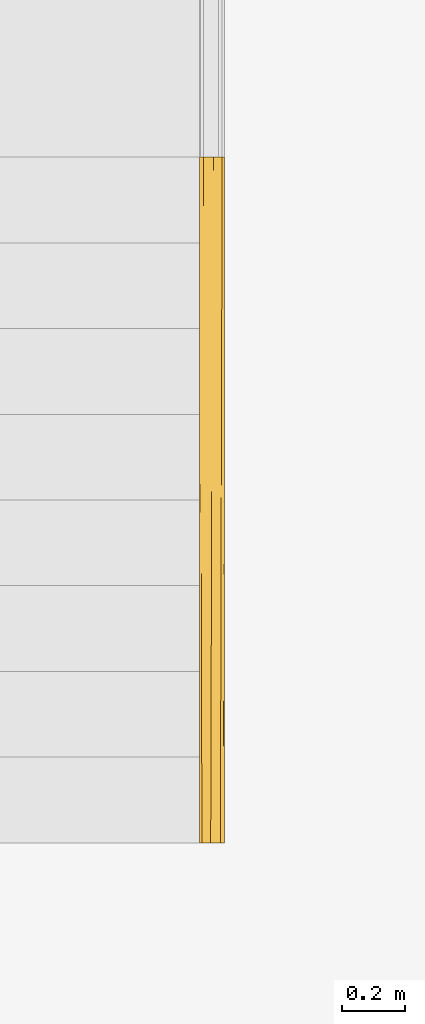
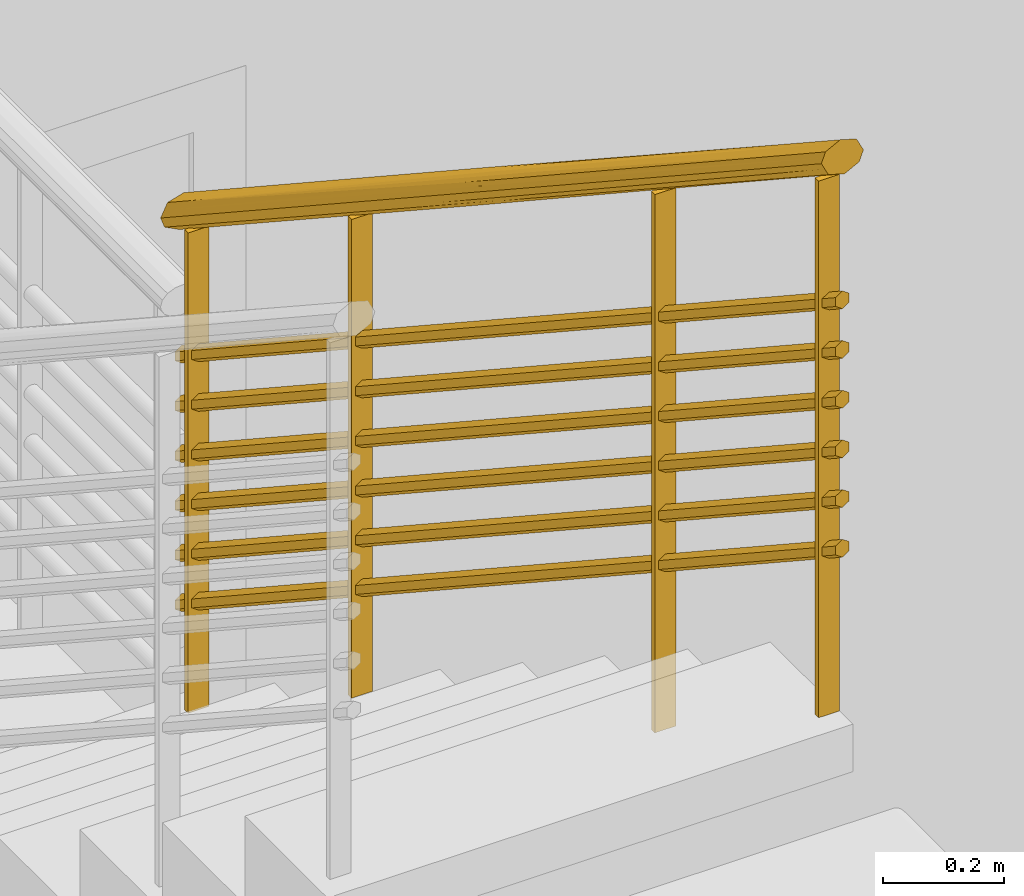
# One storey, part 21 of 40: 1 railing, 1 element without a shape of its own.
"""IFC2X3 building model written with IfcOpenShell, lengths in metres."""

from ifc_helpers import new_model, entity, si_unit, converted_unit, derived_unit, direction, frame, origin, place, context, subcontext, project, spatial, faceted_brep, material, material_list, element, aggregate, save


model = new_model("IFC2X3")

# Units and contexts
model_context = context("Model", 3, precision=1e-05, world=origin(), true_north=direction((6.12303176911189e-17, 1.0)))
body_context = subcontext(model_context, "Body", "Model", "MODEL_VIEW")
ifc_project = project(units=[si_unit("LENGTHUNIT", "METRE"), si_unit("AREAUNIT", "SQUARE_METRE"), si_unit("VOLUMEUNIT", "CUBIC_METRE"), converted_unit("PLANEANGLEUNIT", "DEGREE", entity("IfcRatioMeasure", 0.0174532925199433), si_unit("PLANEANGLEUNIT", "RADIAN"), dimensions=[0, 0, 0, 0, 0, 0, 0]), si_unit("MASSUNIT", "GRAM", prefix="KILO"), derived_unit("MASSDENSITYUNIT", [(si_unit("MASSUNIT", "GRAM", prefix="KILO"), 1), (si_unit("LENGTHUNIT", "METRE"), -3)]), si_unit("TIMEUNIT", "SECOND"), si_unit("FREQUENCYUNIT", "HERTZ"), si_unit("THERMODYNAMICTEMPERATUREUNIT", "DEGREE_CELSIUS"), derived_unit("THERMALTRANSMITTANCEUNIT", [(si_unit("MASSUNIT", "GRAM", prefix="KILO"), 1), (si_unit("THERMODYNAMICTEMPERATUREUNIT", "KELVIN"), -1), (si_unit("TIMEUNIT", "SECOND"), -3)]), derived_unit("VOLUMETRICFLOWRATEUNIT", [(si_unit("LENGTHUNIT", "METRE"), 3), (si_unit("TIMEUNIT", "SECOND"), -1)]), si_unit("ELECTRICCURRENTUNIT", "AMPERE"), si_unit("ELECTRICVOLTAGEUNIT", "VOLT"), si_unit("POWERUNIT", "WATT"), si_unit("FORCEUNIT", "NEWTON", prefix="KILO"), si_unit("ILLUMINANCEUNIT", "LUX"), si_unit("LUMINOUSFLUXUNIT", "LUMEN"), si_unit("LUMINOUSINTENSITYUNIT", "CANDELA"), derived_unit("USERDEFINED", [(si_unit("MASSUNIT", "GRAM", prefix="KILO"), -1), (si_unit("LENGTHUNIT", "METRE"), -2), (si_unit("TIMEUNIT", "SECOND"), 3), (si_unit("LUMINOUSFLUXUNIT", "LUMEN"), 1)]), derived_unit("LINEARVELOCITYUNIT", [(si_unit("LENGTHUNIT", "METRE"), 1), (si_unit("TIMEUNIT", "SECOND"), -1)]), si_unit("PRESSUREUNIT", "PASCAL"), derived_unit("USERDEFINED", [(si_unit("LENGTHUNIT", "METRE"), -2), (si_unit("MASSUNIT", "GRAM", prefix="KILO"), 1), (si_unit("TIMEUNIT", "SECOND"), -2)])], contexts=[model_context])

# Site, building, storey
site_placement = place(None, origin())
site = spatial("IfcSite", under=ifc_project, at=site_placement, Name="Surface", CompositionType="ELEMENT")
building_placement = place(site_placement, origin())
building = spatial("IfcBuilding", under=site, at=building_placement, CompositionType="ELEMENT")
storey_placement = place(building_placement, origin())
storey = spatial("IfcBuildingStorey", under=building, at=storey_placement, Name="RDC", CompositionType="ELEMENT", Elevation=-1.0941605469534e-13)

# Stair, railing
stair_placement = place(storey_placement, origin())
stair = element("IfcStair", 1, at=stair_placement, inside=storey, Name="Escalier:Monobloc", ObjectType="Escalier:Monobloc", ShapeType="NOTDEFINED")
ifc_material_1 = material(Name="Peinture - Grise")
ifc_material_2 = material(Name="Pin (1)")
ifc_material_list = material_list([ifc_material_1, ifc_material_2])
railing_placement = place(stair_placement, frame((3.43591583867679, 4.36818714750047, 1.78823529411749)))
railing = element("IfcRailing", 2, at=railing_placement, material=ifc_material_list, Name="Garde-corps:Type Bateau escalier 2", ObjectType="Garde-corps:Type Bateau escalier 2", PredefinedType="NOTDEFINED", context=body_context, shape_type="Brep", body=[
    faceted_brep([(0.061595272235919, 0.583411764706, 1.97751559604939), (0.061595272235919, 0.595411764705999, 1.97751559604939), (0.0215952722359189, 0.595411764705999, 1.97751559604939), (0.0215952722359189, 0.583411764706, 1.97751559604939), (0.061595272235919, 0.583411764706, 0.894117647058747), (0.0215952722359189, 0.583411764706, 0.894117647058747), (0.0215952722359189, 0.595411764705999, 0.894117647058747), (0.061595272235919, 0.595411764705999, 0.894117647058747)], [[[0, 1, 2, 3]], [[4, 5, 6, 7]], [[1, 0, 4, 7]], [[2, 1, 7, 6]], [[3, 2, 6, 5]], [[0, 3, 5, 4]]]),
    faceted_brep([(0.0615952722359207, 1.583411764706, 1.32092812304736), (0.0615952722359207, 1.595411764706, 1.32092812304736), (0.0215952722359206, 1.595411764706, 1.32092812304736), (0.0215952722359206, 1.583411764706, 1.32092812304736), (0.0615952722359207, 1.583411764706, 0.357647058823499), (0.0215952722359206, 1.583411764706, 0.357647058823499), (0.0215952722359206, 1.595411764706, 0.357647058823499), (0.0615952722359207, 1.595411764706, 0.357647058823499)], [[[0, 1, 2, 3]], [[4, 5, 6, 7]], [[1, 0, 4, 7]], [[2, 1, 7, 6]], [[3, 2, 6, 5]], [[0, 3, 5, 4]]]),
    faceted_brep([(0.061595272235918, 0.043999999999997, 2.33168660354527), (0.061595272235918, 0.055999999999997, 2.33168660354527), (0.0215952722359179, 0.055999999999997, 2.33168660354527), (0.0215952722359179, 0.043999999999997, 2.33168660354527), (0.061595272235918, 0.043999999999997, 1.25176470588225), (0.0215952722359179, 0.043999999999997, 1.25176470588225), (0.0215952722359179, 0.055999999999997, 1.25176470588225), (0.061595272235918, 0.055999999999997, 1.25176470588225)], [[[0, 1, 2, 3]], [[4, 5, 6, 7]], [[1, 0, 4, 7]], [[2, 1, 7, 6]], [[3, 2, 6, 5]], [[0, 3, 5, 4]]]),
    faceted_brep([(0.0615952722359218, 2.122823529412, 0.966757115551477), (0.0615952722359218, 2.134823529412, 0.966757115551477), (0.0215952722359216, 2.134823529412, 0.966757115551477), (0.0215952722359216, 2.122823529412, 0.966757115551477), (0.0615952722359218, 2.122823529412, 0.0), (0.0215952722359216, 2.122823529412, 0.0), (0.0215952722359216, 2.134823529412, 0.0), (0.0615952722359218, 2.134823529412, 0.0)], [[[0, 1, 2, 3]], [[4, 5, 6, 7]], [[1, 0, 4, 7]], [[2, 1, 7, 6]], [[3, 2, 6, 5]], [[0, 3, 5, 4]]]),
    faceted_brep([(0.0545856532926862, 2.17882352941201, 0.69102783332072), (0.0545856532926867, 2.17882352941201, 0.68654174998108), (0.0545856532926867, 2.17882352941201, 0.682055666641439), (0.0545856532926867, 2.17882352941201, 0.677569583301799), (0.0545856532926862, 2.17882352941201, 0.673083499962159), (0.051338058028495, 2.17882352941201, 0.670840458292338), (0.0480904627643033, 2.17882352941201, 0.668597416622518), (0.0451628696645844, 2.17882352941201, 0.66657539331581), (0.0415952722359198, 2.17882352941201, 0.664111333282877), (0.0380276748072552, 2.17882352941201, 0.66657539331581), (0.0344600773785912, 2.17882352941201, 0.669039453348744), (0.0315324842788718, 2.17882352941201, 0.67106147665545), (0.0286048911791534, 2.17882352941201, 0.673083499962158), (0.0286048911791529, 2.17882352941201, 0.677569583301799), (0.0286048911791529, 2.17882352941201, 0.682055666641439), (0.0286048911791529, 2.17882352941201, 0.68654174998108), (0.0286048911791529, 2.17882352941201, 0.69102783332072), (0.0318524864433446, 2.17882352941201, 0.693270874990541), (0.0351000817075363, 2.17882352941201, 0.695513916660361), (0.0383476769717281, 2.17882352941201, 0.697756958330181), (0.0415952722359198, 2.17882352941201, 0.700000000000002), (0.0451628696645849, 2.17882352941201, 0.697535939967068), (0.0480904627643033, 2.17882352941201, 0.695513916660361), (0.051338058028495, 2.17882352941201, 0.69327087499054), (0.0380276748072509, 0.0, 2.12812417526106), (0.0351000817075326, 0.0, 2.12610215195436), (0.0318524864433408, 0.0, 2.12385911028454), (0.0286048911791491, 0.0, 2.12161606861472), (0.0286048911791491, 0.0, 2.11712998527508), (0.0286048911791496, 0.0, 2.11264390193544), (0.0286048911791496, 0.0, 2.10815781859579), (0.0286048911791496, 0.0, 2.10367173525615), (0.0318524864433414, 0.0, 2.10142869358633), (0.0351000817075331, 0.0, 2.09918565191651), (0.0380276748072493, 0.0, 2.09716362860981), (0.041595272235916, 0.0, 2.09469956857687), (0.0448428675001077, 0.0, 2.09694261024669), (0.0480904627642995, 0.0, 2.09918565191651), (0.0513380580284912, 0.0, 2.10142869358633), (0.0545856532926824, 0.0, 2.10367173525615), (0.0545856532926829, 0.0, 2.1081578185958), (0.0545856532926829, 0.0, 2.11264390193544), (0.0545856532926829, 0.0, 2.11712998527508), (0.0545856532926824, 0.0, 2.12161606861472), (0.051658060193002, 0.0, 2.1236380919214), (0.048730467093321, 0.0, 2.12566011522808), (0.045162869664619, 0.0, 2.12812417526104), (0.041595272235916, 0.0, 2.130588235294)], [[[0, 1, 2, 3, 4, 5, 6, 7, 8, 9, 10, 11, 12, 13, 14, 15, 16, 17, 18, 19, 20, 21, 22, 23]], [[24, 25, 26, 27, 28, 29, 30, 31, 32, 33, 34, 35, 36, 37, 38, 39, 40, 41, 42, 43, 44, 45, 46, 47]], [[28, 27, 16, 15, 14, 13, 12, 31, 30, 29]], [[33, 32, 31, 12, 11, 10, 9, 8, 35, 34]], [[47, 20, 19, 18, 17, 16, 27, 26, 25, 24]], [[0, 23, 22, 21, 20, 47, 46, 45, 44, 43]], [[6, 5, 4, 39, 38, 37, 36, 35, 8, 7]], [[3, 2, 1, 0, 43, 42, 41, 40, 39, 4]]]),
    faceted_brep([(0.0545856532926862, 2.17882352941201, 0.591027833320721), (0.0545856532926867, 2.17882352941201, 0.58654174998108), (0.0545856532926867, 2.17882352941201, 0.582055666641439), (0.0545856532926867, 2.17882352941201, 0.577569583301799), (0.0545856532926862, 2.17882352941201, 0.573083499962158), (0.051338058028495, 2.17882352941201, 0.570840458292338), (0.0480904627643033, 2.17882352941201, 0.568597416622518), (0.0451628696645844, 2.17882352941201, 0.56657539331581), (0.0415952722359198, 2.17882352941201, 0.564111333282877), (0.0380276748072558, 2.17882352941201, 0.56657539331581), (0.0344600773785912, 2.17882352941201, 0.569039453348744), (0.0315324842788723, 2.17882352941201, 0.57106147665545), (0.0286048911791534, 2.17882352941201, 0.573083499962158), (0.0286048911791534, 2.17882352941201, 0.577569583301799), (0.0286048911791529, 2.17882352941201, 0.582055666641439), (0.0286048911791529, 2.17882352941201, 0.58654174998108), (0.0286048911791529, 2.17882352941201, 0.59102783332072), (0.0318524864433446, 2.17882352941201, 0.593270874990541), (0.0351000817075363, 2.17882352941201, 0.595513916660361), (0.0383476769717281, 2.17882352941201, 0.597756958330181), (0.0415952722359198, 2.17882352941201, 0.600000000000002), (0.0451628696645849, 2.17882352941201, 0.597535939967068), (0.0480904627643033, 2.17882352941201, 0.595513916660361), (0.0513380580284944, 2.17882352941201, 0.593270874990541), (0.0380276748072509, 0.0, 2.02812417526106), (0.0351000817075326, 0.0, 2.02610215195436), (0.0318524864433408, 0.0, 2.02385911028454), (0.0286048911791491, 0.0, 2.02161606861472), (0.0286048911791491, 0.0, 2.01712998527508), (0.0286048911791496, 0.0, 2.01264390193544), (0.0286048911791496, 0.0, 2.00815781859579), (0.0286048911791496, 0.0, 2.00367173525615), (0.0318524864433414, 0.0, 2.00142869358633), (0.0351000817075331, 0.0, 1.99918565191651), (0.0380276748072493, 0.0, 1.99716362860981), (0.041595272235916, 0.0, 1.99469956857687), (0.0448428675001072, 0.0, 1.99694261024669), (0.0480904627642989, 0.0, 1.99918565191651), (0.0513380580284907, 0.0, 2.00142869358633), (0.0545856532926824, 0.0, 2.00367173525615), (0.0545856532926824, 0.0, 2.00815781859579), (0.0545856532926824, 0.0, 2.01264390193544), (0.0545856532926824, 0.0, 2.01712998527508), (0.0545856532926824, 0.0, 2.02161606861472), (0.0516580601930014, 0.0, 2.0236380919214), (0.048730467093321, 0.0, 2.02566011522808), (0.045162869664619, 0.0, 2.02812417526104), (0.041595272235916, 0.0, 2.030588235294)], [[[0, 1, 2, 3, 4, 5, 6, 7, 8, 9, 10, 11, 12, 13, 14, 15, 16, 17, 18, 19, 20, 21, 22, 23]], [[24, 25, 26, 27, 28, 29, 30, 31, 32, 33, 34, 35, 36, 37, 38, 39, 40, 41, 42, 43, 44, 45, 46, 47]], [[28, 27, 16, 15, 14, 13, 12, 31, 30, 29]], [[33, 32, 31, 12, 11, 10, 9, 8, 35, 34]], [[47, 20, 19, 18, 17, 16, 27, 26, 25, 24]], [[0, 23, 22, 21, 20, 47, 46, 45, 44, 43]], [[6, 5, 4, 39, 38, 37, 36, 35, 8, 7]], [[3, 2, 1, 0, 43, 42, 41, 40, 39, 4]]]),
    faceted_brep([(0.0545856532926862, 2.17882352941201, 0.491027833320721), (0.0545856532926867, 2.17882352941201, 0.48654174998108), (0.0545856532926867, 2.17882352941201, 0.48205566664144), (0.0545856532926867, 2.17882352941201, 0.477569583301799), (0.0545856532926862, 2.17882352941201, 0.473083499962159), (0.051338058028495, 2.17882352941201, 0.470840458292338), (0.0480904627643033, 2.17882352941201, 0.468597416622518), (0.0451628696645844, 2.17882352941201, 0.46657539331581), (0.0415952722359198, 2.17882352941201, 0.464111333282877), (0.0380276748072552, 2.17882352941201, 0.46657539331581), (0.0344600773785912, 2.17882352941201, 0.469039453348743), (0.0315324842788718, 2.17882352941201, 0.471061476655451), (0.0286048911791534, 2.17882352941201, 0.473083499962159), (0.0286048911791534, 2.17882352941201, 0.477569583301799), (0.0286048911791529, 2.17882352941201, 0.482055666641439), (0.0286048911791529, 2.17882352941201, 0.48654174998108), (0.0286048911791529, 2.17882352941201, 0.491027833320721), (0.0318524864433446, 2.17882352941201, 0.493270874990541), (0.0351000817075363, 2.17882352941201, 0.495513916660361), (0.0383476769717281, 2.17882352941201, 0.497756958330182), (0.0415952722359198, 2.17882352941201, 0.500000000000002), (0.0451628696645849, 2.17882352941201, 0.497535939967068), (0.0480904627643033, 2.17882352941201, 0.495513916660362), (0.0513380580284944, 2.17882352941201, 0.493270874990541), (0.0380276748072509, 0.0, 1.92812417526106), (0.0351000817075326, 0.0, 1.92610215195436), (0.0318524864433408, 0.0, 1.92385911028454), (0.0286048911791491, 0.0, 1.92161606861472), (0.0286048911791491, 0.0, 1.91712998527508), (0.0286048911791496, 0.0, 1.91264390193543), (0.0286048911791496, 0.0, 1.90815781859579), (0.0286048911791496, 0.0, 1.90367173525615), (0.0318524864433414, 0.0, 1.90142869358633), (0.0351000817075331, 0.0, 1.89918565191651), (0.0380276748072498, 0.0, 1.89716362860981), (0.041595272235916, 0.0, 1.89469956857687), (0.0448428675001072, 0.0, 1.89694261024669), (0.0480904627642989, 0.0, 1.89918565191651), (0.0513380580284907, 0.0, 1.90142869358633), (0.0545856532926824, 0.0, 1.90367173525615), (0.0545856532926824, 0.0, 1.90815781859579), (0.0545856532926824, 0.0, 1.91264390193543), (0.0545856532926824, 0.0, 1.91712998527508), (0.0545856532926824, 0.0, 1.92161606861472), (0.0516580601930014, 0.0, 1.9236380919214), (0.0487304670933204, 0.0, 1.92566011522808), (0.0451628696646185, 0.0, 1.92812417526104), (0.041595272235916, 0.0, 1.930588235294)], [[[0, 1, 2, 3, 4, 5, 6, 7, 8, 9, 10, 11, 12, 13, 14, 15, 16, 17, 18, 19, 20, 21, 22, 23]], [[24, 25, 26, 27, 28, 29, 30, 31, 32, 33, 34, 35, 36, 37, 38, 39, 40, 41, 42, 43, 44, 45, 46, 47]], [[28, 27, 16, 15, 14, 13, 12, 31, 30, 29]], [[33, 32, 31, 12, 11, 10, 9, 8, 35, 34]], [[47, 20, 19, 18, 17, 16, 27, 26, 25, 24]], [[0, 23, 22, 21, 20, 47, 46, 45, 44, 43]], [[6, 5, 4, 39, 38, 37, 36, 35, 8, 7]], [[3, 2, 1, 0, 43, 42, 41, 40, 39, 4]]]),
    faceted_brep([(0.0545856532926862, 2.17882352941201, 0.391027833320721), (0.0545856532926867, 2.17882352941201, 0.38654174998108), (0.0545856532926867, 2.17882352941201, 0.38205566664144), (0.0545856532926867, 2.17882352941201, 0.377569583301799), (0.0545856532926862, 2.17882352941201, 0.373083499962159), (0.051338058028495, 2.17882352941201, 0.370840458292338), (0.0480904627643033, 2.17882352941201, 0.368597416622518), (0.0451628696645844, 2.17882352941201, 0.366575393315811), (0.0415952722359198, 2.17882352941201, 0.364111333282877), (0.0380276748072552, 2.17882352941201, 0.36657539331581), (0.0344600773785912, 2.17882352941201, 0.369039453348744), (0.0315324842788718, 2.17882352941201, 0.371061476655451), (0.0286048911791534, 2.17882352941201, 0.373083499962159), (0.0286048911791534, 2.17882352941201, 0.377569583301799), (0.0286048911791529, 2.17882352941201, 0.382055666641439), (0.0286048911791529, 2.17882352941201, 0.38654174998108), (0.0286048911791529, 2.17882352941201, 0.391027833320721), (0.0318524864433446, 2.17882352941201, 0.393270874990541), (0.0351000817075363, 2.17882352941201, 0.395513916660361), (0.0383476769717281, 2.17882352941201, 0.397756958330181), (0.0415952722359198, 2.17882352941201, 0.400000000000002), (0.0451628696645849, 2.17882352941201, 0.397535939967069), (0.0480904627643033, 2.17882352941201, 0.395513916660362), (0.0513380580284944, 2.17882352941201, 0.393270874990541), (0.0380276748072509, 0.0, 1.82812417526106), (0.0351000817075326, 0.0, 1.82610215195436), (0.0318524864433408, 0.0, 1.82385911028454), (0.0286048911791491, 0.0, 1.82161606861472), (0.0286048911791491, 0.0, 1.81712998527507), (0.0286048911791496, 0.0, 1.81264390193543), (0.0286048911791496, 0.0, 1.80815781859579), (0.0286048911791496, 0.0, 1.80367173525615), (0.0318524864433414, 0.0, 1.80142869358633), (0.0351000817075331, 0.0, 1.79918565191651), (0.0380276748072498, 0.0, 1.79716362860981), (0.041595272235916, 0.0, 1.79469956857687), (0.0448428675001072, 0.0, 1.79694261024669), (0.0480904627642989, 0.0, 1.79918565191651), (0.0513380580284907, 0.0, 1.80142869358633), (0.0545856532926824, 0.0, 1.80367173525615), (0.0545856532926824, 0.0, 1.80815781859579), (0.0545856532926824, 0.0, 1.81264390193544), (0.0545856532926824, 0.0, 1.81712998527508), (0.0545856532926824, 0.0, 1.82161606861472), (0.0516580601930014, 0.0, 1.8236380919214), (0.0487304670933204, 0.0, 1.82566011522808), (0.0451628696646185, 0.0, 1.82812417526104), (0.041595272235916, 0.0, 1.830588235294)], [[[0, 1, 2, 3, 4, 5, 6, 7, 8, 9, 10, 11, 12, 13, 14, 15, 16, 17, 18, 19, 20, 21, 22, 23]], [[24, 25, 26, 27, 28, 29, 30, 31, 32, 33, 34, 35, 36, 37, 38, 39, 40, 41, 42, 43, 44, 45, 46, 47]], [[28, 27, 16, 15, 14, 13, 12, 31, 30, 29]], [[33, 32, 31, 12, 11, 10, 9, 8, 35, 34]], [[47, 20, 19, 18, 17, 16, 27, 26, 25, 24]], [[0, 23, 22, 21, 20, 47, 46, 45, 44, 43]], [[6, 5, 4, 39, 38, 37, 36, 35, 8, 7]], [[3, 2, 1, 0, 43, 42, 41, 40, 39, 4]]]),
    faceted_brep([(0.0545856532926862, 2.17882352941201, 0.291027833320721), (0.0545856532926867, 2.17882352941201, 0.28654174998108), (0.0545856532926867, 2.17882352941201, 0.28205566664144), (0.0545856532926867, 2.17882352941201, 0.277569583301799), (0.0545856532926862, 2.17882352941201, 0.273083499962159), (0.051338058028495, 2.17882352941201, 0.270840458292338), (0.0480904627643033, 2.17882352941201, 0.268597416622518), (0.0451628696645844, 2.17882352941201, 0.266575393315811), (0.0415952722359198, 2.17882352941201, 0.264111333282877), (0.0380276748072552, 2.17882352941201, 0.26657539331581), (0.0344600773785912, 2.17882352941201, 0.269039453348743), (0.0315324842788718, 2.17882352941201, 0.271061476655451), (0.0286048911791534, 2.17882352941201, 0.273083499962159), (0.0286048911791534, 2.17882352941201, 0.277569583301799), (0.0286048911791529, 2.17882352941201, 0.282055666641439), (0.0286048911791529, 2.17882352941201, 0.28654174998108), (0.0286048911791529, 2.17882352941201, 0.291027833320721), (0.0318524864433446, 2.17882352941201, 0.293270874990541), (0.0351000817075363, 2.17882352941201, 0.295513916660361), (0.0383476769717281, 2.17882352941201, 0.297756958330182), (0.0415952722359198, 2.17882352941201, 0.300000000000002), (0.0451628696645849, 2.17882352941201, 0.297535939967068), (0.0480904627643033, 2.17882352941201, 0.295513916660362), (0.0513380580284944, 2.17882352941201, 0.293270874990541), (0.0380276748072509, 0.0, 1.72812417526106), (0.0351000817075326, 0.0, 1.72610215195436), (0.0318524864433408, 0.0, 1.72385911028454), (0.0286048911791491, 0.0, 1.72161606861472), (0.0286048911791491, 0.0, 1.71712998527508), (0.0286048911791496, 0.0, 1.71264390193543), (0.0286048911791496, 0.0, 1.70815781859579), (0.0286048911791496, 0.0, 1.70367173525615), (0.0318524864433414, 0.0, 1.70142869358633), (0.0351000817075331, 0.0, 1.69918565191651), (0.0380276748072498, 0.0, 1.69716362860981), (0.041595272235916, 0.0, 1.69469956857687), (0.0448428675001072, 0.0, 1.69694261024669), (0.0480904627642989, 0.0, 1.69918565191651), (0.0513380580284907, 0.0, 1.70142869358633), (0.0545856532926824, 0.0, 1.70367173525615), (0.0545856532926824, 0.0, 1.70815781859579), (0.0545856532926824, 0.0, 1.71264390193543), (0.0545856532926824, 0.0, 1.71712998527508), (0.0545856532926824, 0.0, 1.72161606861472), (0.0516580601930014, 0.0, 1.7236380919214), (0.0487304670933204, 0.0, 1.72566011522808), (0.0451628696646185, 0.0, 1.72812417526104), (0.041595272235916, 0.0, 1.730588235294)], [[[0, 1, 2, 3, 4, 5, 6, 7, 8, 9, 10, 11, 12, 13, 14, 15, 16, 17, 18, 19, 20, 21, 22, 23]], [[24, 25, 26, 27, 28, 29, 30, 31, 32, 33, 34, 35, 36, 37, 38, 39, 40, 41, 42, 43, 44, 45, 46, 47]], [[28, 27, 16, 15, 14, 13, 12, 31, 30, 29]], [[33, 32, 31, 12, 11, 10, 9, 8, 35, 34]], [[47, 20, 19, 18, 17, 16, 27, 26, 25, 24]], [[0, 23, 22, 21, 20, 47, 46, 45, 44, 43]], [[6, 5, 4, 39, 38, 37, 36, 35, 8, 7]], [[3, 2, 1, 0, 43, 42, 41, 40, 39, 4]]]),
    faceted_brep([(0.0545856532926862, 2.17882352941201, 0.191027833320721), (0.0545856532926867, 2.17882352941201, 0.18654174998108), (0.0545856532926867, 2.17882352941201, 0.18205566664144), (0.0545856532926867, 2.17882352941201, 0.177569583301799), (0.0545856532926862, 2.17882352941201, 0.173083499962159), (0.051338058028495, 2.17882352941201, 0.170840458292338), (0.0480904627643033, 2.17882352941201, 0.168597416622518), (0.0451628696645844, 2.17882352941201, 0.16657539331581), (0.0415952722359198, 2.17882352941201, 0.164111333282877), (0.0380276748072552, 2.17882352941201, 0.16657539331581), (0.0344600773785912, 2.17882352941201, 0.169039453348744), (0.0315324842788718, 2.17882352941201, 0.171061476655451), (0.0286048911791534, 2.17882352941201, 0.173083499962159), (0.0286048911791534, 2.17882352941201, 0.177569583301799), (0.0286048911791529, 2.17882352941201, 0.182055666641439), (0.0286048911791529, 2.17882352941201, 0.18654174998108), (0.0286048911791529, 2.17882352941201, 0.191027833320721), (0.0318524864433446, 2.17882352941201, 0.193270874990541), (0.0351000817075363, 2.17882352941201, 0.195513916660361), (0.0383476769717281, 2.17882352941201, 0.197756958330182), (0.0415952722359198, 2.17882352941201, 0.200000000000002), (0.0451628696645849, 2.17882352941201, 0.197535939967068), (0.0480904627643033, 2.17882352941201, 0.195513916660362), (0.0513380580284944, 2.17882352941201, 0.193270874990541), (0.0380276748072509, 0.0, 1.62812417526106), (0.0351000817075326, 0.0, 1.62610215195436), (0.0318524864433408, 0.0, 1.62385911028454), (0.0286048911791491, 0.0, 1.62161606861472), (0.0286048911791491, 0.0, 1.61712998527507), (0.0286048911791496, 0.0, 1.61264390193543), (0.0286048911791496, 0.0, 1.60815781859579), (0.0286048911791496, 0.0, 1.60367173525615), (0.0318524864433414, 0.0, 1.60142869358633), (0.0351000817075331, 0.0, 1.59918565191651), (0.0380276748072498, 0.0, 1.59716362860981), (0.041595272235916, 0.0, 1.59469956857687), (0.0448428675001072, 0.0, 1.59694261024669), (0.0480904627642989, 0.0, 1.59918565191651), (0.0513380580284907, 0.0, 1.60142869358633), (0.0545856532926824, 0.0, 1.60367173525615), (0.0545856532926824, 0.0, 1.60815781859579), (0.0545856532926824, 0.0, 1.61264390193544), (0.0545856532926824, 0.0, 1.61712998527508), (0.0545856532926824, 0.0, 1.62161606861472), (0.0516580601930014, 0.0, 1.6236380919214), (0.0487304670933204, 0.0, 1.62566011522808), (0.0451628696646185, 0.0, 1.62812417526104), (0.041595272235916, 0.0, 1.630588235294)], [[[0, 1, 2, 3, 4, 5, 6, 7, 8, 9, 10, 11, 12, 13, 14, 15, 16, 17, 18, 19, 20, 21, 22, 23]], [[24, 25, 26, 27, 28, 29, 30, 31, 32, 33, 34, 35, 36, 37, 38, 39, 40, 41, 42, 43, 44, 45, 46, 47]], [[28, 27, 16, 15, 14, 13, 12, 31, 30, 29]], [[33, 32, 31, 12, 11, 10, 9, 8, 35, 34]], [[47, 20, 19, 18, 17, 16, 27, 26, 25, 24]], [[0, 23, 22, 21, 20, 47, 46, 45, 44, 43]], [[6, 5, 4, 39, 38, 37, 36, 35, 8, 7]], [[3, 2, 1, 0, 43, 42, 41, 40, 39, 4]]]),
    faceted_brep([(0.0374141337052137, 2.17882352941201, 0.934307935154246), (0.0233243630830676, 2.17882352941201, 0.941606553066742), (0.0092345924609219, 2.17882352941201, 0.948905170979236), (0.00541493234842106, 2.17882352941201, 0.95945258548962), (0.00159527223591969, 2.17882352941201, 0.970000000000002), (0.00821266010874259, 2.17882352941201, 0.983335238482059), (0.0148300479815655, 2.17882352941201, 0.996670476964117), (0.0303032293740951, 2.17882352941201, 1.00118127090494), (0.0457764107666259, 2.17882352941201, 1.00569206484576), (0.0598661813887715, 2.17882352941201, 0.998393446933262), (0.0739559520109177, 2.17882352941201, 0.991094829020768), (0.0777756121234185, 2.17882352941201, 0.980547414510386), (0.0815952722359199, 2.17882352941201, 0.970000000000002), (0.074977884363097, 2.17882352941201, 0.956664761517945), (0.0683604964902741, 2.17882352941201, 0.943329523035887), (0.0528873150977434, 2.17882352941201, 0.938818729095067), (0.0451507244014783, 2.17882352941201, 0.936563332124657), (0.0148300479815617, 0.0, 2.37391775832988), (0.0303032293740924, 0.0, 2.36940696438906), (0.0457764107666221, 0.0, 2.36489617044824), (0.0598661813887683, 0.0, 2.37219478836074), (0.0739559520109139, 0.0, 2.37949340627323), (0.0777756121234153, 0.0, 2.39004082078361), (0.0815952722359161, 0.0, 2.400588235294), (0.0780345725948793, 0.0, 2.40776369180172), (0.0749778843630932, 0.0, 2.41392347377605), (0.0683604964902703, 0.0, 2.42725871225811), (0.0528873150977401, 0.0, 2.43176950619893), (0.03741413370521, 0.0, 2.43628030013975), (0.0303692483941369, 0.0, 2.43263099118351), (0.0233243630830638, 0.0, 2.42898168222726), (0.00923459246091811, 0.0, 2.42168306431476), (0.00541493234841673, 0.0, 2.41113564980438), (0.0015952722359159, 0.0, 2.400588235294), (0.00821266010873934, 0.0, 2.38725299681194), (0.0788772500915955, 1.08524672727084, 1.67502524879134), (0.0567381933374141, 1.03481886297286, 1.68792160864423), (0.0663564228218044, 1.02120530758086, 1.70189180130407), (0.0739386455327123, 1.27059694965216, 1.54521401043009), (0.0815952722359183, 1.22200511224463, 1.59823498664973), (0.0815952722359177, 0.956814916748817, 1.77235554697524), (0.020083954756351, 0.983374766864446, 1.7246595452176), (0.0302011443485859, 1.22640352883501, 1.56094520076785), (0.0415833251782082, 1.0888041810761, 1.64980438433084), (0.0117050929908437, 1.07873872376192, 1.66845252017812), (0.00560671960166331, 1.16150963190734, 1.62229086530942), (0.00159527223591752, 0.956814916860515, 1.7723555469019), (0.00159527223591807, 1.22200684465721, 1.59823384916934), (0.0036144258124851, 1.13020197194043, 1.66977016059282), (0.00824433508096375, 1.19660142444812, 1.63472910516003), (0.0156276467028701, 0.95388857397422, 1.80157479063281), (0.0253434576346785, 1.08995358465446, 1.71773134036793), (0.0804922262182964, 1.23613268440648, 1.59732897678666), (0.040656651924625, 1.13014947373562, 1.69442503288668), (0.0516738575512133, 1.16849995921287, 1.66809657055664), (0.0709225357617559, 1.11520575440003, 1.69276358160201), (0.0772510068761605, 1.18130522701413, 1.64122385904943), (0.0618127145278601, 0.920417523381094, 1.82722066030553)], [[[0, 1, 2, 3, 4, 5, 6, 7, 8, 9, 10, 11, 12, 13, 14, 15, 16]], [[17, 18, 19, 20, 21, 22, 23, 24, 25, 26, 27, 28, 29, 30, 31, 32, 33, 34]], [[35, 13, 12]], [[15, 14, 36, 16]], [[21, 37, 38]], [[37, 36, 14]], [[20, 36, 37]], [[35, 12, 39, 40]], [[41, 42, 18]], [[38, 13, 35]], [[18, 42, 43]], [[44, 41, 17]], [[2, 45, 3]], [[14, 38, 37]], [[44, 1, 41]], [[38, 14, 13]], [[0, 43, 42]], [[34, 33, 46, 47]], [[35, 22, 21]], [[0, 16, 43]], [[40, 23, 22]], [[20, 37, 21]], [[36, 20, 19]], [[36, 19, 43]], [[36, 43, 16]], [[43, 19, 18]], [[42, 1, 0]], [[1, 42, 41]], [[2, 1, 44]], [[17, 41, 18]], [[47, 4, 3]], [[44, 17, 34]], [[34, 45, 44]], [[38, 35, 21]], [[45, 34, 47]], [[22, 35, 40]], [[44, 45, 2]], [[3, 45, 47]], [[48, 32, 49]], [[6, 49, 50]], [[50, 30, 51]], [[30, 29, 51]], [[52, 25, 24]], [[8, 53, 54]], [[55, 26, 25]], [[55, 56, 10]], [[25, 52, 56]], [[48, 5, 4]], [[55, 25, 56]], [[11, 10, 56]], [[24, 23, 40, 39]], [[57, 55, 9]], [[57, 9, 54]], [[51, 6, 50]], [[26, 55, 57]], [[52, 39, 12]], [[54, 53, 27]], [[55, 10, 9]], [[57, 27, 26]], [[27, 57, 54]], [[28, 27, 53]], [[8, 54, 9]], [[29, 28, 53]], [[53, 8, 7]], [[7, 6, 51]], [[53, 51, 29]], [[7, 51, 53]], [[50, 31, 30]], [[31, 50, 49]], [[11, 56, 52]], [[32, 31, 49]], [[5, 49, 6]], [[49, 5, 48]], [[46, 33, 32]], [[48, 46, 32]], [[48, 4, 47, 46]], [[11, 52, 12]], [[39, 52, 24]]]),
])
aggregate(stair, [railing])

save(model, "model.ifc")
